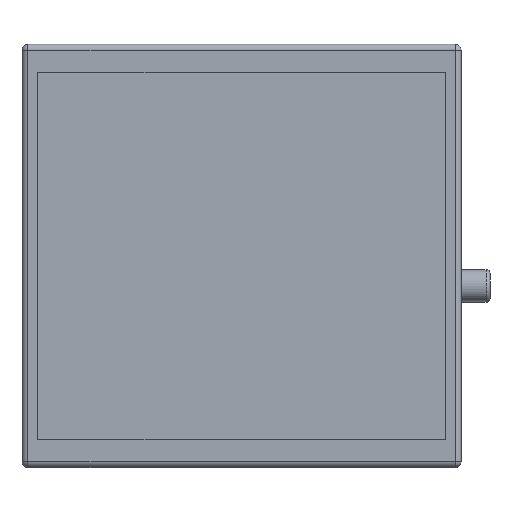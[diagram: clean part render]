
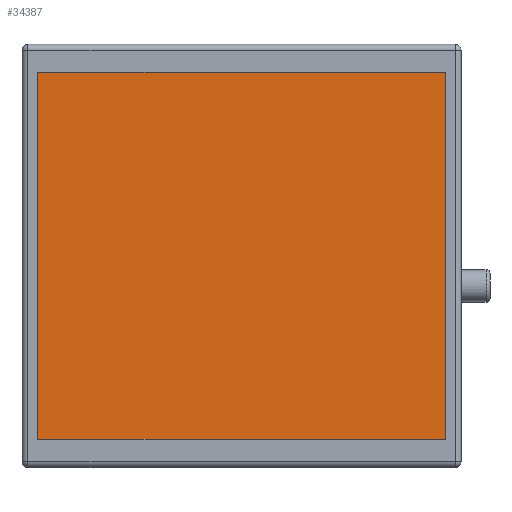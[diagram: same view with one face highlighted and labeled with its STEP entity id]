
A CAD part, top view. The second image highlights one B-rep face of the part: STEP entity #34387.
In plain terms, the highlighted planar face has unit normal (0, 0, 1).
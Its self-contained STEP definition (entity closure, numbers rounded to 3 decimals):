
#603 = PLANE('',#604);
#604 = AXIS2_PLACEMENT_3D('',#605,#606,#607);
#605 = CARTESIAN_POINT('',(-51.,46.,35.));
#606 = DIRECTION('',(0.,-1.,0.));
#607 = DIRECTION('',(1.,0.,0.));
#631 = PLANE('',#632);
#632 = AXIS2_PLACEMENT_3D('',#633,#634,#635);
#633 = CARTESIAN_POINT('',(-51.,-46.,35.));
#634 = DIRECTION('',(1.,0.,0.));
#635 = DIRECTION('',(0.,1.,0.));
#659 = PLANE('',#660);
#660 = AXIS2_PLACEMENT_3D('',#661,#662,#663);
#661 = CARTESIAN_POINT('',(51.,-46.,35.));
#662 = DIRECTION('',(0.,1.,0.));
#663 = DIRECTION('',(-1.,0.,0.));
#685 = PLANE('',#686);
#686 = AXIS2_PLACEMENT_3D('',#687,#688,#689);
#687 = CARTESIAN_POINT('',(51.,46.,35.));
#688 = DIRECTION('',(-1.,0.,0.));
#689 = DIRECTION('',(0.,-1.,0.));
#13090 = VERTEX_POINT('',#13091);
#13091 = CARTESIAN_POINT('',(-51.,46.,34.));
#13112 = EDGE_CURVE('',#13090,#13113,#13115,.T.);
#13113 = VERTEX_POINT('',#13114);
#13114 = CARTESIAN_POINT('',(51.,46.,34.));
#13115 = SURFACE_CURVE('',#13116,(#13120,#13127),.PCURVE_S1.);
#13116 = LINE('',#13117,#13118);
#13117 = CARTESIAN_POINT('',(-51.,46.,34.));
#13118 = VECTOR('',#13119,1.);
#13119 = DIRECTION('',(1.,0.,0.));
#13120 = PCURVE('',#603,#13121);
#13121 = DEFINITIONAL_REPRESENTATION('',(#13122),#13126);
#13122 = LINE('',#13123,#13124);
#13123 = CARTESIAN_POINT('',(0.,-1.));
#13124 = VECTOR('',#13125,1.);
#13125 = DIRECTION('',(1.,0.));
#13126 = ( GEOMETRIC_REPRESENTATION_CONTEXT(2) 
PARAMETRIC_REPRESENTATION_CONTEXT() REPRESENTATION_CONTEXT('2D SPACE',''
  ) );
#13127 = PCURVE('',#13128,#13133);
#13128 = PLANE('',#13129);
#13129 = AXIS2_PLACEMENT_3D('',#13130,#13131,#13132);
#13130 = CARTESIAN_POINT('',(0.,0.,34.));
#13131 = DIRECTION('',(-0.,-0.,-1.));
#13132 = DIRECTION('',(-1.,0.,0.));
#13133 = DEFINITIONAL_REPRESENTATION('',(#13134),#13138);
#13134 = LINE('',#13135,#13136);
#13135 = CARTESIAN_POINT('',(51.,46.));
#13136 = VECTOR('',#13137,1.);
#13137 = DIRECTION('',(-1.,0.));
#13138 = ( GEOMETRIC_REPRESENTATION_CONTEXT(2) 
PARAMETRIC_REPRESENTATION_CONTEXT() REPRESENTATION_CONTEXT('2D SPACE',''
  ) );
#13166 = EDGE_CURVE('',#13113,#13167,#13169,.T.);
#13167 = VERTEX_POINT('',#13168);
#13168 = CARTESIAN_POINT('',(51.,-46.,34.));
#13169 = SURFACE_CURVE('',#13170,(#13174,#13181),.PCURVE_S1.);
#13170 = LINE('',#13171,#13172);
#13171 = CARTESIAN_POINT('',(51.,46.,34.));
#13172 = VECTOR('',#13173,1.);
#13173 = DIRECTION('',(0.,-1.,0.));
#13174 = PCURVE('',#685,#13175);
#13175 = DEFINITIONAL_REPRESENTATION('',(#13176),#13180);
#13176 = LINE('',#13177,#13178);
#13177 = CARTESIAN_POINT('',(0.,-1.));
#13178 = VECTOR('',#13179,1.);
#13179 = DIRECTION('',(1.,0.));
#13180 = ( GEOMETRIC_REPRESENTATION_CONTEXT(2) 
PARAMETRIC_REPRESENTATION_CONTEXT() REPRESENTATION_CONTEXT('2D SPACE',''
  ) );
#13181 = PCURVE('',#13128,#13182);
#13182 = DEFINITIONAL_REPRESENTATION('',(#13183),#13187);
#13183 = LINE('',#13184,#13185);
#13184 = CARTESIAN_POINT('',(-51.,46.));
#13185 = VECTOR('',#13186,1.);
#13186 = DIRECTION('',(0.,-1.));
#13187 = ( GEOMETRIC_REPRESENTATION_CONTEXT(2) 
PARAMETRIC_REPRESENTATION_CONTEXT() REPRESENTATION_CONTEXT('2D SPACE',''
  ) );
#13215 = EDGE_CURVE('',#13167,#13216,#13218,.T.);
#13216 = VERTEX_POINT('',#13217);
#13217 = CARTESIAN_POINT('',(-51.,-46.,34.));
#13218 = SURFACE_CURVE('',#13219,(#13223,#13230),.PCURVE_S1.);
#13219 = LINE('',#13220,#13221);
#13220 = CARTESIAN_POINT('',(51.,-46.,34.));
#13221 = VECTOR('',#13222,1.);
#13222 = DIRECTION('',(-1.,0.,0.));
#13223 = PCURVE('',#659,#13224);
#13224 = DEFINITIONAL_REPRESENTATION('',(#13225),#13229);
#13225 = LINE('',#13226,#13227);
#13226 = CARTESIAN_POINT('',(0.,-1.));
#13227 = VECTOR('',#13228,1.);
#13228 = DIRECTION('',(1.,0.));
#13229 = ( GEOMETRIC_REPRESENTATION_CONTEXT(2) 
PARAMETRIC_REPRESENTATION_CONTEXT() REPRESENTATION_CONTEXT('2D SPACE',''
  ) );
#13230 = PCURVE('',#13128,#13231);
#13231 = DEFINITIONAL_REPRESENTATION('',(#13232),#13236);
#13232 = LINE('',#13233,#13234);
#13233 = CARTESIAN_POINT('',(-51.,-46.));
#13234 = VECTOR('',#13235,1.);
#13235 = DIRECTION('',(1.,0.));
#13236 = ( GEOMETRIC_REPRESENTATION_CONTEXT(2) 
PARAMETRIC_REPRESENTATION_CONTEXT() REPRESENTATION_CONTEXT('2D SPACE',''
  ) );
#13264 = EDGE_CURVE('',#13216,#13090,#13265,.T.);
#13265 = SURFACE_CURVE('',#13266,(#13270,#13277),.PCURVE_S1.);
#13266 = LINE('',#13267,#13268);
#13267 = CARTESIAN_POINT('',(-51.,-46.,34.));
#13268 = VECTOR('',#13269,1.);
#13269 = DIRECTION('',(0.,1.,0.));
#13270 = PCURVE('',#631,#13271);
#13271 = DEFINITIONAL_REPRESENTATION('',(#13272),#13276);
#13272 = LINE('',#13273,#13274);
#13273 = CARTESIAN_POINT('',(0.,-1.));
#13274 = VECTOR('',#13275,1.);
#13275 = DIRECTION('',(1.,0.));
#13276 = ( GEOMETRIC_REPRESENTATION_CONTEXT(2) 
PARAMETRIC_REPRESENTATION_CONTEXT() REPRESENTATION_CONTEXT('2D SPACE',''
  ) );
#13277 = PCURVE('',#13128,#13278);
#13278 = DEFINITIONAL_REPRESENTATION('',(#13279),#13283);
#13279 = LINE('',#13280,#13281);
#13280 = CARTESIAN_POINT('',(51.,-46.));
#13281 = VECTOR('',#13282,1.);
#13282 = DIRECTION('',(0.,1.));
#13283 = ( GEOMETRIC_REPRESENTATION_CONTEXT(2) 
PARAMETRIC_REPRESENTATION_CONTEXT() REPRESENTATION_CONTEXT('2D SPACE',''
  ) );
#34387 = ADVANCED_FACE('',(#34388),#13128,.F.);
#34388 = FACE_BOUND('',#34389,.F.);
#34389 = EDGE_LOOP('',(#34390,#34391,#34392,#34393));
#34390 = ORIENTED_EDGE('',*,*,#13112,.T.);
#34391 = ORIENTED_EDGE('',*,*,#13166,.T.);
#34392 = ORIENTED_EDGE('',*,*,#13215,.T.);
#34393 = ORIENTED_EDGE('',*,*,#13264,.T.);
